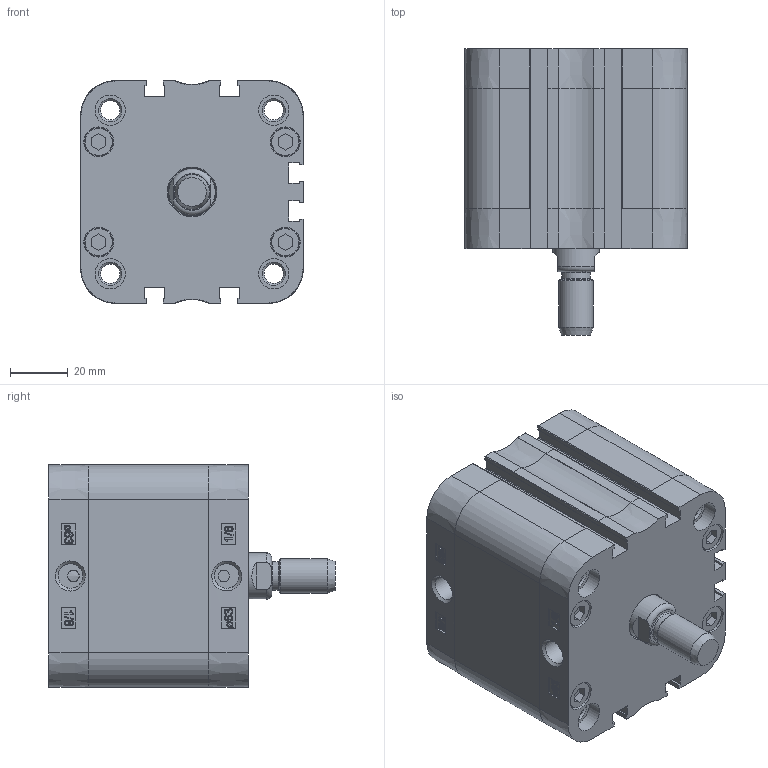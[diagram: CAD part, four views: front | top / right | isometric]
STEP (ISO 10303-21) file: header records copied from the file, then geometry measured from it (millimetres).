
FILE_DESCRIPTION((''),'2;1');
FILE_NAME('T:\Archivio Inventor\- CATALOGHI 2012\SERIE P - NUOVA\PDM\PDM063\PDM063.---.GS.M\PDM063.020.GS.M.stp','2013-02-04T09:20:11',('Administrator'),(''),'Autodesk Inventor 2012','Autodesk Inventor 2012','');
FILE_SCHEMA(('CONFIG_CONTROL_DESIGN'));
Length unit declared in the file: millimetre
Products named in the file (1): PDM063.020.GS.M
Bounding box: 77 x 99 x 77 mm (x, y, z)
Volume: 210534.9 mm3; surface area: 79192.7 mm2
Topology: 1 solids, 5 shells, 824 faces, 1993 edges, 1252 vertices
Faces by surface type: plane 346, bspline 218, cylinder 142, torus 55, cone 45, sphere 18
Full cylindrical faces by diameter (mm): 4 x2, 6.3 x4, 6.647 x8, 8.047 x4, 8.566 x2, 9.8 x8, 10 x1, 10.3 x8, 10.5 x8, 12 x2, 16 x1, 16.5 x1, 63 x1, 65.4 x1, 65.6 x1
Entity records: 27348 total; most frequent: CARTESIAN_POINT 9100, ORIENTED_EDGE 3744, DIRECTION 3031, EDGE_CURVE 1872, VERTEX_POINT 1231, AXIS2_PLACEMENT_3D 1026, EDGE_LOOP 1003, VECTOR 979
